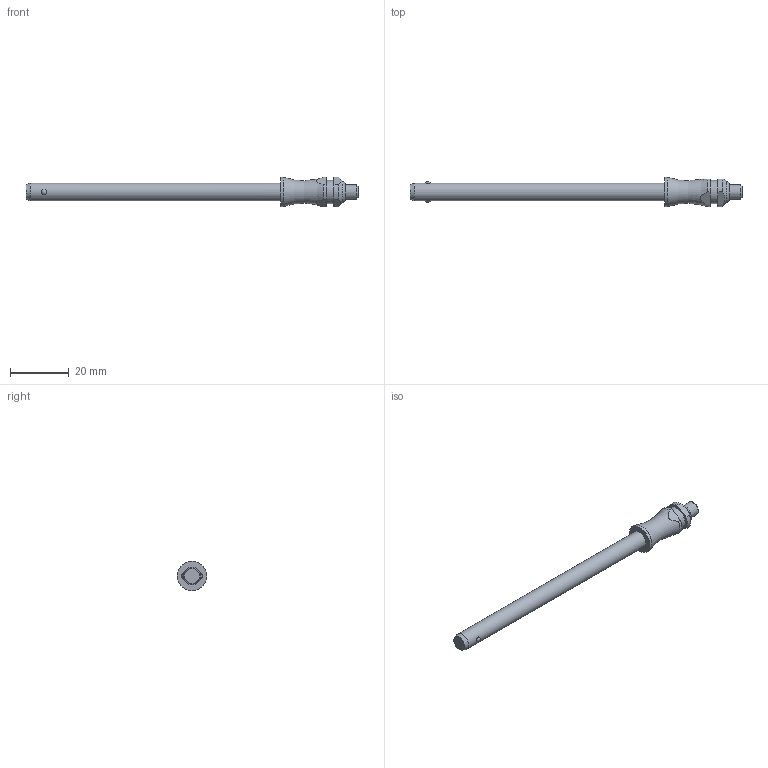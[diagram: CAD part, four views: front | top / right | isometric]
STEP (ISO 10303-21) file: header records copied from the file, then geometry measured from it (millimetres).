
FILE_DESCRIPTION( ( 'STEP AP203' ), '1' );
FILE_NAME( 'C:/Temp/Ganter_Step_05_03_2020/data/3_1/gn113_3/Stainless Steel-Ball lock pin GN 113.3-6-80 (deactivated).stp', '2020-03-12T08:18:21', ( 'License CC BY-ND 4.0' ), ( 'CADENAS' ), ' ', 'PARTsolutions', ' ' );
FILE_SCHEMA( ( 'CONFIG_CONTROL_DESIGN' ) );
Length unit declared in the file: millimetre
Products named in the file (1): _Stainless Steel-Ball lock pin GN 113.3-6-80 (deactivated)
Bounding box: 113.3 x 10 x 10 mm (x, y, z)
Volume: 3796.6 mm3; surface area: 2459.8 mm2
Topology: 1 solids, 1 shells, 29 faces, 61 edges, 40 vertices
Faces by surface type: plane 12, cylinder 10, cone 3, torus 2, sphere 2
Full cylindrical faces by diameter (mm): 5 x1, 6 x1, 7.9 x1, 10 x1
Entity records: 918 total; most frequent: CARTESIAN_POINT 288, DIRECTION 126, ORIENTED_EDGE 100, AXIS2_PLACEMENT_3D 54, EDGE_CURVE 50, EDGE_LOOP 44, VERTEX_POINT 38, FACE_OUTER_BOUND 35
